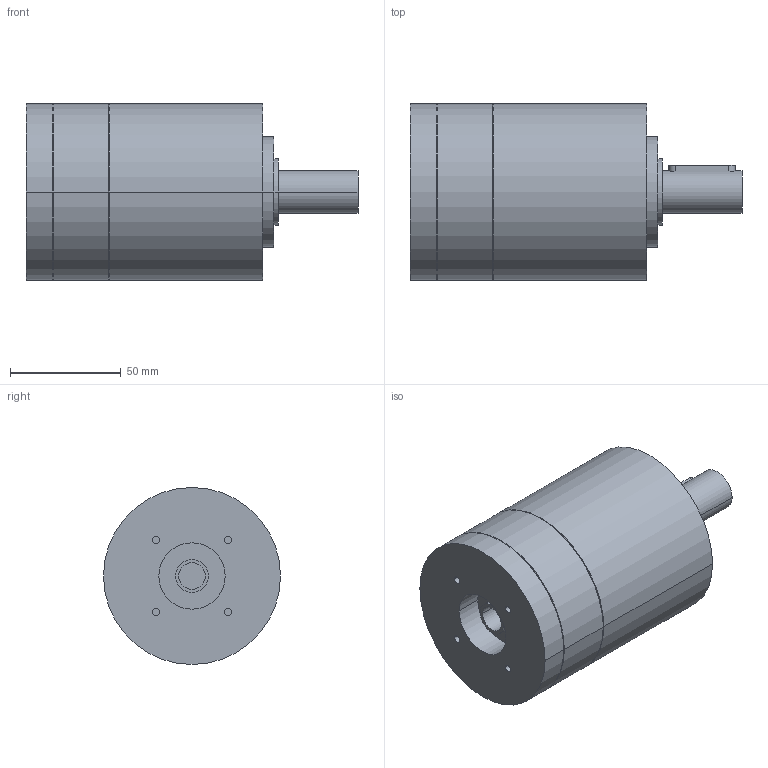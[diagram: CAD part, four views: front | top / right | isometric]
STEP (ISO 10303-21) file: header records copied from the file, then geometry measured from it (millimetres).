
FILE_DESCRIPTION(('CoCreate Modeling STEP Export'),'2;1');
FILE_NAME('GPR100_ig-3-4-5-6_19_B14_12.7_P24.stp','2014-08-26T10:06:34',(''),(''),'CoCreate Modeling STEP processor for AP214 (Solid Model)','CoCreate Modeling 16.00C 25-Feb-2009 (C) Parametric Technology GmbH','');
FILE_SCHEMA(('AUTOMOTIVE_DESIGN { 1 0 10303 214 1 1 1 1 }'));
Length unit declared in the file: millimetre
Products named in the file (2): GPR100_ig-3-4-5-6_19_B14_12.7_P24
Assembly tree (1 placements, depth 2):
  GPR100_ig-3-4-5-6_19_B14_12.7_P24
    GPR100_ig-3-4-5-6_19_B14_12.7_P24
Bounding box: 150 x 80 x 80 mm (x, y, z)
Volume: 547259.3 mm3; surface area: 44749 mm2
Topology: 1 solids, 1 shells, 65 faces, 159 edges, 111 vertices
Faces by surface type: cylinder 38, plane 21, cone 6
Entity records: 1641 total; most frequent: ORIENTED_EDGE 314, CARTESIAN_POINT 307, DIRECTION 214, EDGE_CURVE 157, VERTEX_POINT 111, AXIS2_PLACEMENT_3D 82, EDGE_LOOP 82, FACE_OUTER_BOUND 65
